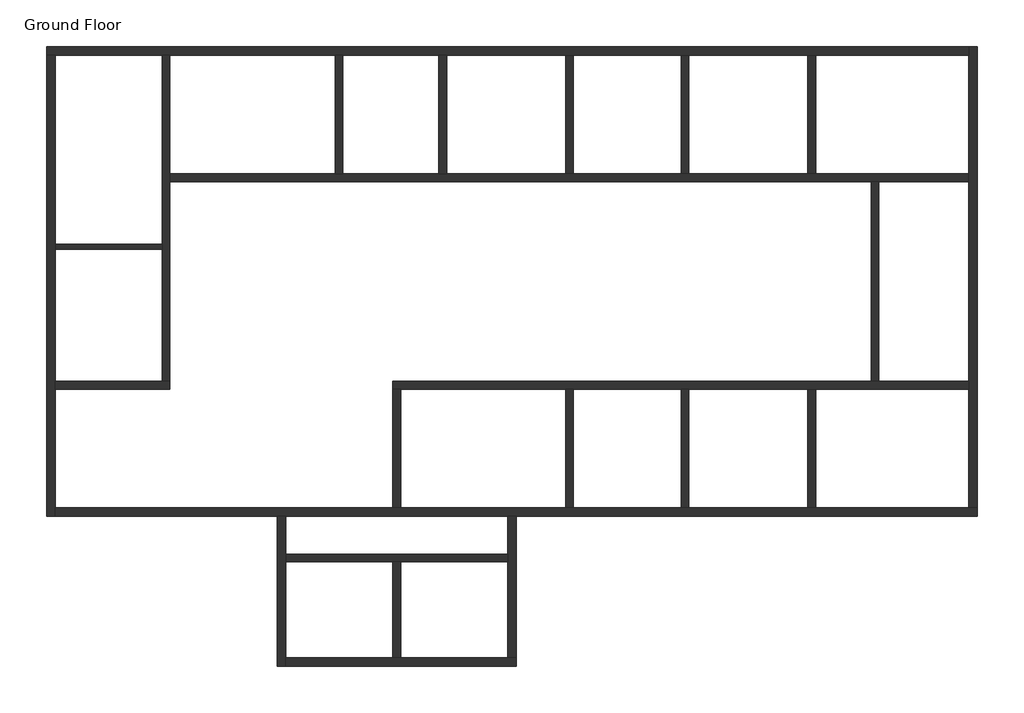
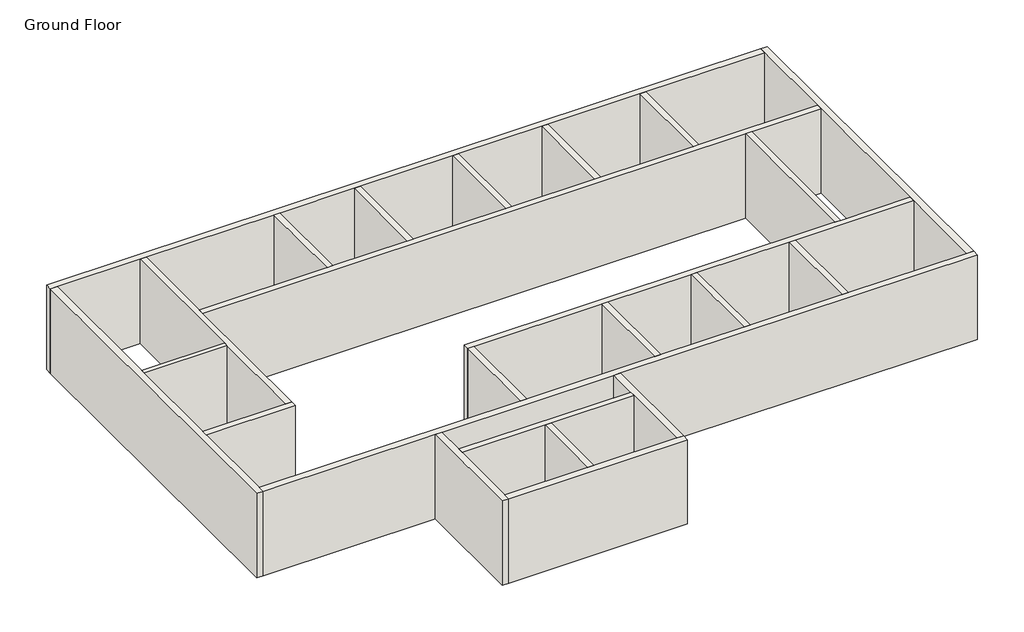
# One storey: 24 walls.
"""IFC4 building model written with IfcOpenShell, lengths in millimetres."""

from ifc_helpers import new_model, si_unit, origin, origin_with_axes, place, context, project, spatial, polyline, outline, extrude, faceted_brep, element, save

model = new_model("IFC4")

# Units and contexts
model_context = context("Model", 3, world=origin())
ifc_project = project(units=[si_unit("LENGTHUNIT", "METRE", prefix="MILLI")], contexts=[model_context])

# Site, building, storey
site = spatial("IfcSite", under=ifc_project)
building = spatial("IfcBuilding", under=site)
storey = spatial("IfcBuildingStorey", under=building, Name="Ground Floor", Elevation=0.0)

# Walls
placement = place(None, origin())
element("IfcWall", 1, ObjectType="Generic - 5\"", at=placement, inside=storey, context=model_context, shape_type="SweptSolid", body=[
    extrude(outline(polyline([(-10331.6529941, 6453.7787797), (-13163.7529941, 6453.7787797), (-13163.7529941, 6580.7787797), (-10331.6529941, 6580.7787797), (-10331.6529941, 6453.7787797)])), origin_with_axes(), (0.0, 0.0, 1.0), 3048.0),
])
element("IfcWall", 2, ObjectType="Generic - 8\"", at=placement, inside=storey, context=model_context, shape_type="Brep", body=[
    faceted_brep([(-10331.6529941, 11584.5787797, 0.0), (-10331.6529941, 6580.7787797, 0.0), (-10331.6529941, 6453.7787797, 0.0), (-10331.6529941, 2961.2787797, 0.0), (-10331.6529941, 2961.2787797, 3048.0), (-10331.6529941, 6453.7787797, 3048.0), (-10331.6529941, 6580.7787797, 3048.0), (-10331.6529941, 11584.5787797, 3048.0), (-10128.4529941, 11584.5787797, 0.0), (-10128.4529941, 11584.5787797, 3048.0), (-10128.4529941, 8447.6787797, 3048.0), (-10128.4529941, 8244.4787797, 3048.0), (-10128.4529941, 2961.2787797, 3048.0), (-10128.4529941, 2961.2787797, 0.0), (-10128.4529941, 8244.4787797, 0.0), (-10128.4529941, 8447.6787797, 0.0)], [[[0, 1, 2, 3, 4, 5, 6, 7]], [[8, 9, 10, 11, 12, 13, 14, 15]], [[3, 2, 1, 0, 8, 15, 14, 13]], [[7, 6, 5, 4, 12, 11, 10, 9]], [[0, 7, 9, 8]], [[4, 3, 13, 12]]]),
])
element("IfcWall", 3, ObjectType="Generic - 8\"", at=placement, inside=storey, context=model_context, shape_type="Brep", body=[
    faceted_brep([(-10128.4529941, 2961.2787797, 0.0), (-10331.6529941, 2961.2787797, 0.0), (-13163.7529941, 2961.2787797, 0.0), (-13163.7529941, 2961.2787797, 3048.0), (-10331.6529941, 2961.2787797, 3048.0), (-10128.4529941, 2961.2787797, 3048.0), (-10128.4529941, 2758.0787797, 0.0), (-10128.4529941, 2758.0787797, 3048.0), (-13163.7529941, 2758.0787797, 3048.0), (-13163.7529941, 2758.0787797, 0.0)], [[[0, 1, 2, 3, 4, 5]], [[6, 7, 8, 9]], [[2, 1, 0, 6, 9]], [[5, 4, 3, 8, 7]], [[3, 2, 9, 8]], [[0, 5, 7, 6]]]),
])
element("IfcWall", 4, ObjectType="Generic - 8\"", at=placement, inside=storey, context=model_context, shape_type="Brep", body=[
    faceted_brep([(-10128.4529941, 8244.4787797, 0.0), (8413.5470059, 8244.4787797, 0.0), (8616.7470059, 8244.4787797, 0.0), (10991.6470059, 8244.4787797, 0.0), (10991.6470059, 8244.4787797, 3048.0), (8616.7470059, 8244.4787797, 3048.0), (8413.5470059, 8244.4787797, 3048.0), (-10128.4529941, 8244.4787797, 3048.0), (-10128.4529941, 8447.6787797, 0.0), (-10128.4529941, 8447.6787797, 3048.0), (-5759.6529941, 8447.6787797, 3048.0), (-5556.4529941, 8447.6787797, 3048.0), (-3016.4529941, 8447.6787797, 3048.0), (-2813.2529941, 8447.6787797, 3048.0), (336.3470059, 8447.6787797, 3048.0), (539.5470059, 8447.6787797, 3048.0), (3384.3470059, 8447.6787797, 3048.0), (3587.5470059, 8447.6787797, 3048.0), (6737.1470059, 8447.6787797, 3048.0), (6940.3470059, 8447.6787797, 3048.0), (10991.6470059, 8447.6787797, 3048.0), (10991.6470059, 8447.6787797, 0.0), (6940.3470059, 8447.6787797, 0.0), (6737.1470059, 8447.6787797, 0.0), (3587.5470059, 8447.6787797, 0.0), (3384.3470059, 8447.6787797, 0.0), (539.5470059, 8447.6787797, 0.0), (336.3470059, 8447.6787797, 0.0), (-2813.2529941, 8447.6787797, 0.0), (-3016.4529941, 8447.6787797, 0.0), (-5556.4529941, 8447.6787797, 0.0), (-5759.6529941, 8447.6787797, 0.0)], [[[0, 1, 2, 3, 4, 5, 6, 7]], [[8, 9, 10, 11, 12, 13, 14, 15, 16, 17, 18, 19, 20, 21, 22, 23, 24, 25, 26, 27, 28, 29, 30, 31]], [[3, 2, 1, 0, 8, 31, 30, 29, 28, 27, 26, 25, 24, 23, 22, 21]], [[7, 6, 5, 4, 20, 19, 18, 17, 16, 15, 14, 13, 12, 11, 10, 9]], [[4, 3, 21, 20]], [[0, 7, 9, 8]]]),
])
element("IfcWall", 5, ObjectType="Generic - 8\"", at=placement, inside=storey, context=model_context, shape_type="SweptSolid", body=[
    extrude(outline(polyline([(-5556.4529941, 11584.5787797), (-5556.4529941, 8447.6787797), (-5759.6529941, 8447.6787797), (-5759.6529941, 11584.5787797), (-5556.4529941, 11584.5787797)])), origin_with_axes(), (0.0, 0.0, 1.0), 3048.0),
])
element("IfcWall", 6, ObjectType="Generic - 8\"", at=placement, inside=storey, context=model_context, shape_type="SweptSolid", body=[
    extrude(outline(polyline([(-3016.4529941, 8447.6787797), (-3016.4529941, 11584.5787797), (-2813.2529941, 11584.5787797), (-2813.2529941, 8447.6787797), (-3016.4529941, 8447.6787797)])), origin_with_axes(), (0.0, 0.0, 1.0), 3048.0),
])
element("IfcWall", 7, ObjectType="Generic - 8\"", at=placement, inside=storey, context=model_context, shape_type="SweptSolid", body=[
    extrude(outline(polyline([(336.3470059, 8447.6787797), (336.3470059, 11584.5787797), (539.5470059, 11584.5787797), (539.5470059, 8447.6787797), (336.3470059, 8447.6787797)])), origin_with_axes(), (0.0, 0.0, 1.0), 3048.0),
])
element("IfcWall", 8, ObjectType="Generic - 8\"", at=placement, inside=storey, context=model_context, shape_type="SweptSolid", body=[
    extrude(outline(polyline([(3384.3470059, 8447.6787797), (3384.3470059, 11584.5787797), (3587.5470059, 11584.5787797), (3587.5470059, 8447.6787797), (3384.3470059, 8447.6787797)])), origin_with_axes(), (0.0, 0.0, 1.0), 3048.0),
])
element("IfcWall", 9, ObjectType="Generic - 8\"", at=placement, inside=storey, context=model_context, shape_type="SweptSolid", body=[
    extrude(outline(polyline([(6737.1470059, 8447.6787797), (6737.1470059, 11584.5787797), (6940.3470059, 11584.5787797), (6940.3470059, 8447.6787797), (6737.1470059, 8447.6787797)])), origin_with_axes(), (0.0, 0.0, 1.0), 3048.0),
])
element("IfcWall", 10, ObjectType="Generic - 8\"", at=placement, inside=storey, context=model_context, shape_type="Brep", body=[
    faceted_brep([(-4235.6529941, 2758.0787797, 0.0), (-4032.4529941, 2758.0787797, 0.0), (336.3470059, 2758.0787797, 0.0), (539.5470059, 2758.0787797, 0.0), (3384.3470059, 2758.0787797, 0.0), (3587.5470059, 2758.0787797, 0.0), (6737.1470059, 2758.0787797, 0.0), (6940.3470059, 2758.0787797, 0.0), (10991.6470059, 2758.0787797, 0.0), (10991.6470059, 2758.0787797, 3048.0), (6940.3470059, 2758.0787797, 3048.0), (6737.1470059, 2758.0787797, 3048.0), (3587.5470059, 2758.0787797, 3048.0), (3384.3470059, 2758.0787797, 3048.0), (539.5470059, 2758.0787797, 3048.0), (336.3470059, 2758.0787797, 3048.0), (-4032.4529941, 2758.0787797, 3048.0), (-4235.6529941, 2758.0787797, 3048.0), (-4235.6529941, 2961.2787797, 0.0), (-4235.6529941, 2961.2787797, 3048.0), (8413.5470059, 2961.2787797, 3048.0), (8616.7470059, 2961.2787797, 3048.0), (10991.6470059, 2961.2787797, 3048.0), (10991.6470059, 2961.2787797, 0.0), (8616.7470059, 2961.2787797, 0.0), (8413.5470059, 2961.2787797, 0.0)], [[[0, 1, 2, 3, 4, 5, 6, 7, 8, 9, 10, 11, 12, 13, 14, 15, 16, 17]], [[18, 19, 20, 21, 22, 23, 24, 25]], [[8, 7, 6, 5, 4, 3, 2, 1, 0, 18, 25, 24, 23]], [[17, 16, 15, 14, 13, 12, 11, 10, 9, 22, 21, 20, 19]], [[9, 8, 23, 22]], [[0, 17, 19, 18]]]),
])
element("IfcWall", 11, ObjectType="Generic - 8\"", at=placement, inside=storey, context=model_context, shape_type="SweptSolid", body=[
    extrude(outline(polyline([(-4032.4529941, 2758.0787797), (-4032.4529941, -378.8212203), (-4235.6529941, -378.8212203), (-4235.6529941, 2758.0787797), (-4032.4529941, 2758.0787797)])), origin_with_axes(), (0.0, 0.0, 1.0), 3048.0),
])
element("IfcWall", 12, ObjectType="Generic - 8\"", at=placement, inside=storey, context=model_context, shape_type="SweptSolid", body=[
    extrude(outline(polyline([(539.5470059, 2758.0787797), (539.5470059, -378.8212203), (336.3470059, -378.8212203), (336.3470059, 2758.0787797), (539.5470059, 2758.0787797)])), origin_with_axes(), (0.0, 0.0, 1.0), 3048.0),
])
element("IfcWall", 13, ObjectType="Generic - 8\"", at=placement, inside=storey, context=model_context, shape_type="SweptSolid", body=[
    extrude(outline(polyline([(3587.5470059, 2758.0787797), (3587.5470059, -378.8212203), (3384.3470059, -378.8212203), (3384.3470059, 2758.0787797), (3587.5470059, 2758.0787797)])), origin_with_axes(), (0.0, 0.0, 1.0), 3048.0),
])
element("IfcWall", 14, ObjectType="Generic - 8\"", at=placement, inside=storey, context=model_context, shape_type="SweptSolid", body=[
    extrude(outline(polyline([(6940.3470059, 2758.0787797), (6940.3470059, -378.8212203), (6737.1470059, -378.8212203), (6737.1470059, 2758.0787797), (6940.3470059, 2758.0787797)])), origin_with_axes(), (0.0, 0.0, 1.0), 3048.0),
])
element("IfcWall", 15, ObjectType="Generic - 8\"", at=placement, inside=storey, context=model_context, shape_type="SweptSolid", body=[
    extrude(outline(polyline([(8413.5470059, 2961.2787797), (8413.5470059, 8244.4787797), (8616.7470059, 8244.4787797), (8616.7470059, 2961.2787797), (8413.5470059, 2961.2787797)])), origin_with_axes(), (0.0, 0.0, 1.0), 3048.0),
])
element("IfcWall", 16, ObjectType="Generic - 8\"", at=placement, inside=storey, context=model_context, shape_type="SweptSolid", body=[
    extrude(outline(polyline([(-4032.4529941, -1813.9212203), (-4032.4529941, -4341.2212203), (-4235.6529941, -4341.2212203), (-4235.6529941, -1813.9212203), (-4032.4529941, -1813.9212203)])), origin_with_axes(), (0.0, 0.0, 1.0), 3048.0),
])
element("IfcWall", 17, ObjectType="Generic - 8\"", at=placement, inside=storey, context=model_context, shape_type="Brep", body=[
    faceted_brep([(-1200.3529941, -1610.7212203, 0.0), (-7067.7529941, -1610.7212203, 0.0), (-7067.7529941, -1610.7212203, 3048.0), (-1200.3529941, -1610.7212203, 3048.0), (-1200.3529941, -1813.9212203, 0.0), (-1200.3529941, -1813.9212203, 3048.0), (-4032.4529941, -1813.9212203, 3048.0), (-4235.6529941, -1813.9212203, 3048.0), (-7067.7529941, -1813.9212203, 3048.0), (-7067.7529941, -1813.9212203, 0.0), (-4235.6529941, -1813.9212203, 0.0), (-4032.4529941, -1813.9212203, 0.0)], [[[0, 1, 2, 3]], [[4, 5, 6, 7, 8, 9, 10, 11]], [[1, 0, 4, 11, 10, 9]], [[3, 2, 8, 7, 6, 5]], [[2, 1, 9, 8]], [[0, 3, 5, 4]]]),
])
element("IfcWall", 18, ObjectType="Generic- 9\"", at=placement, inside=storey, context=model_context, shape_type="Brep", body=[
    faceted_brep([(-13392.3529941, 11584.5787797, 0.0), (-13163.7529941, 11584.5787797, 0.0), (-10331.6529941, 11584.5787797, 0.0), (-10128.4529941, 11584.5787797, 0.0), (-5759.6529941, 11584.5787797, 0.0), (-5556.4529941, 11584.5787797, 0.0), (-3016.4529941, 11584.5787797, 0.0), (-2813.2529941, 11584.5787797, 0.0), (336.3470059, 11584.5787797, 0.0), (539.5470059, 11584.5787797, 0.0), (3384.3470059, 11584.5787797, 0.0), (3587.5470059, 11584.5787797, 0.0), (6737.1470059, 11584.5787797, 0.0), (6940.3470059, 11584.5787797, 0.0), (10991.6470059, 11584.5787797, 0.0), (10991.6470059, 11584.5787797, 3048.0), (6940.3470059, 11584.5787797, 3048.0), (6737.1470059, 11584.5787797, 3048.0), (3587.5470059, 11584.5787797, 3048.0), (3384.3470059, 11584.5787797, 3048.0), (539.5470059, 11584.5787797, 3048.0), (336.3470059, 11584.5787797, 3048.0), (-2813.2529941, 11584.5787797, 3048.0), (-3016.4529941, 11584.5787797, 3048.0), (-5556.4529941, 11584.5787797, 3048.0), (-5759.6529941, 11584.5787797, 3048.0), (-10128.4529941, 11584.5787797, 3048.0), (-10331.6529941, 11584.5787797, 3048.0), (-13163.7529941, 11584.5787797, 3048.0), (-13392.3529941, 11584.5787797, 3048.0), (-13392.3529941, 11813.1787797, 0.0), (-13392.3529941, 11813.1787797, 3048.0), (10991.6470059, 11813.1787797, 3048.0), (10991.6470059, 11813.1787797, 0.0)], [[[0, 1, 2, 3, 4, 5, 6, 7, 8, 9, 10, 11, 12, 13, 14, 15, 16, 17, 18, 19, 20, 21, 22, 23, 24, 25, 26, 27, 28, 29]], [[30, 31, 32, 33]], [[14, 13, 12, 11, 10, 9, 8, 7, 6, 5, 4, 3, 2, 1, 0, 30, 33]], [[29, 28, 27, 26, 25, 24, 23, 22, 21, 20, 19, 18, 17, 16, 15, 32, 31]], [[0, 29, 31, 30]], [[15, 14, 33, 32]]]),
])
element("IfcWall", 19, ObjectType="Generic- 9\"", at=placement, inside=storey, context=model_context, shape_type="Brep", body=[
    faceted_brep([(-13163.7529941, -607.4212203, 0.0), (-13163.7529941, -378.8212203, 0.0), (-13163.7529941, 2758.0787797, 0.0), (-13163.7529941, 2961.2787797, 0.0), (-13163.7529941, 6453.7787797, 0.0), (-13163.7529941, 6580.7787797, 0.0), (-13163.7529941, 11584.5787797, 0.0), (-13163.7529941, 11584.5787797, 3048.0), (-13163.7529941, 6580.7787797, 3048.0), (-13163.7529941, 6453.7787797, 3048.0), (-13163.7529941, 2961.2787797, 3048.0), (-13163.7529941, 2758.0787797, 3048.0), (-13163.7529941, -378.8212203, 3048.0), (-13163.7529941, -607.4212203, 3048.0), (-13392.3529941, -607.4212203, 0.0), (-13392.3529941, -607.4212203, 3048.0), (-13392.3529941, 11584.5787797, 3048.0), (-13392.3529941, 11584.5787797, 0.0)], [[[0, 1, 2, 3, 4, 5, 6, 7, 8, 9, 10, 11, 12, 13]], [[14, 15, 16, 17]], [[6, 5, 4, 3, 2, 1, 0, 14, 17]], [[13, 12, 11, 10, 9, 8, 7, 16, 15]], [[0, 13, 15, 14]], [[7, 6, 17, 16]]]),
])
element("IfcWall", 20, ObjectType="Generic- 9\"", at=placement, inside=storey, context=model_context, shape_type="Brep", body=[
    faceted_brep([(11220.2470059, -378.8212203, 0.0), (10991.6470059, -378.8212203, 0.0), (6940.3470059, -378.8212203, 0.0), (6737.1470059, -378.8212203, 0.0), (3587.5470059, -378.8212203, 0.0), (3384.3470059, -378.8212203, 0.0), (539.5470059, -378.8212203, 0.0), (336.3470059, -378.8212203, 0.0), (-4032.4529941, -378.8212203, 0.0), (-4235.6529941, -378.8212203, 0.0), (-13163.7529941, -378.8212203, 0.0), (-13163.7529941, -378.8212203, 3048.0), (-4235.6529941, -378.8212203, 3048.0), (-4032.4529941, -378.8212203, 3048.0), (336.3470059, -378.8212203, 3048.0), (539.5470059, -378.8212203, 3048.0), (3384.3470059, -378.8212203, 3048.0), (3587.5470059, -378.8212203, 3048.0), (6737.1470059, -378.8212203, 3048.0), (6940.3470059, -378.8212203, 3048.0), (10991.6470059, -378.8212203, 3048.0), (11220.2470059, -378.8212203, 3048.0), (11220.2470059, -607.4212203, 0.0), (11220.2470059, -607.4212203, 3048.0), (-971.7529941, -607.4212203, 3048.0), (-1200.3529941, -607.4212203, 3048.0), (-7067.7529941, -607.4212203, 3048.0), (-7296.3529941, -607.4212203, 3048.0), (-13163.7529941, -607.4212203, 3048.0), (-13163.7529941, -607.4212203, 0.0), (-7296.3529941, -607.4212203, 0.0), (-7067.7529941, -607.4212203, 0.0), (-1200.3529941, -607.4212203, 0.0), (-971.7529941, -607.4212203, 0.0)], [[[0, 1, 2, 3, 4, 5, 6, 7, 8, 9, 10, 11, 12, 13, 14, 15, 16, 17, 18, 19, 20, 21]], [[22, 23, 24, 25, 26, 27, 28, 29, 30, 31, 32, 33]], [[10, 9, 8, 7, 6, 5, 4, 3, 2, 1, 0, 22, 33, 32, 31, 30, 29]], [[21, 20, 19, 18, 17, 16, 15, 14, 13, 12, 11, 28, 27, 26, 25, 24, 23]], [[0, 21, 23, 22]], [[11, 10, 29, 28]]]),
])
element("IfcWall", 21, ObjectType="Generic- 9\"", at=placement, inside=storey, context=model_context, shape_type="Brep", body=[
    faceted_brep([(10991.6470059, 11813.1787797, 0.0), (10991.6470059, 11584.5787797, 0.0), (10991.6470059, 8447.6787797, 0.0), (10991.6470059, 8244.4787797, 0.0), (10991.6470059, 2961.2787797, 0.0), (10991.6470059, 2758.0787797, 0.0), (10991.6470059, -378.8212203, 0.0), (10991.6470059, -378.8212203, 3048.0), (10991.6470059, 2758.0787797, 3048.0), (10991.6470059, 2961.2787797, 3048.0), (10991.6470059, 8244.4787797, 3048.0), (10991.6470059, 8447.6787797, 3048.0), (10991.6470059, 11584.5787797, 3048.0), (10991.6470059, 11813.1787797, 3048.0), (11220.2470059, 11813.1787797, 0.0), (11220.2470059, 11813.1787797, 3048.0), (11220.2470059, -378.8212203, 3048.0), (11220.2470059, -378.8212203, 0.0)], [[[0, 1, 2, 3, 4, 5, 6, 7, 8, 9, 10, 11, 12, 13]], [[14, 15, 16, 17]], [[6, 5, 4, 3, 2, 1, 0, 14, 17]], [[13, 12, 11, 10, 9, 8, 7, 16, 15]], [[0, 13, 15, 14]], [[7, 6, 17, 16]]]),
])
element("IfcWall", 22, ObjectType="Generic- 9\"", at=placement, inside=storey, context=model_context, shape_type="Brep", body=[
    faceted_brep([(-7296.3529941, -607.4212203, 0.0), (-7296.3529941, -4569.8212203, 0.0), (-7296.3529941, -4569.8212203, 3048.0), (-7296.3529941, -607.4212203, 3048.0), (-7067.7529941, -607.4212203, 0.0), (-7067.7529941, -607.4212203, 3048.0), (-7067.7529941, -1610.7212203, 3048.0), (-7067.7529941, -1813.9212203, 3048.0), (-7067.7529941, -4341.2212203, 3048.0), (-7067.7529941, -4569.8212203, 3048.0), (-7067.7529941, -4569.8212203, 0.0), (-7067.7529941, -4341.2212203, 0.0), (-7067.7529941, -1813.9212203, 0.0), (-7067.7529941, -1610.7212203, 0.0)], [[[0, 1, 2, 3]], [[4, 5, 6, 7, 8, 9, 10, 11, 12, 13]], [[1, 0, 4, 13, 12, 11, 10]], [[3, 2, 9, 8, 7, 6, 5]], [[0, 3, 5, 4]], [[2, 1, 10, 9]]]),
])
element("IfcWall", 23, ObjectType="Generic- 9\"", at=placement, inside=storey, context=model_context, shape_type="Brep", body=[
    faceted_brep([(-7067.7529941, -4569.8212203, 0.0), (-971.7529941, -4569.8212203, 0.0), (-971.7529941, -4569.8212203, 3048.0), (-7067.7529941, -4569.8212203, 3048.0), (-7067.7529941, -4341.2212203, 0.0), (-7067.7529941, -4341.2212203, 3048.0), (-4235.6529941, -4341.2212203, 3048.0), (-4032.4529941, -4341.2212203, 3048.0), (-1200.3529941, -4341.2212203, 3048.0), (-971.7529941, -4341.2212203, 3048.0), (-971.7529941, -4341.2212203, 0.0), (-1200.3529941, -4341.2212203, 0.0), (-4032.4529941, -4341.2212203, 0.0), (-4235.6529941, -4341.2212203, 0.0)], [[[0, 1, 2, 3]], [[4, 5, 6, 7, 8, 9, 10, 11, 12, 13]], [[1, 0, 4, 13, 12, 11, 10]], [[3, 2, 9, 8, 7, 6, 5]], [[0, 3, 5, 4]], [[2, 1, 10, 9]]]),
])
element("IfcWall", 24, ObjectType="Generic- 9\"", at=placement, inside=storey, context=model_context, shape_type="Brep", body=[
    faceted_brep([(-971.7529941, -4341.2212203, 0.0), (-971.7529941, -607.4212203, 0.0), (-971.7529941, -607.4212203, 3048.0), (-971.7529941, -4341.2212203, 3048.0), (-1200.3529941, -4341.2212203, 0.0), (-1200.3529941, -4341.2212203, 3048.0), (-1200.3529941, -1813.9212203, 3048.0), (-1200.3529941, -1610.7212203, 3048.0), (-1200.3529941, -607.4212203, 3048.0), (-1200.3529941, -607.4212203, 0.0), (-1200.3529941, -1610.7212203, 0.0), (-1200.3529941, -1813.9212203, 0.0)], [[[0, 1, 2, 3]], [[4, 5, 6, 7, 8, 9, 10, 11]], [[1, 0, 4, 11, 10, 9]], [[3, 2, 8, 7, 6, 5]], [[0, 3, 5, 4]], [[2, 1, 9, 8]]]),
])

save(model, "model.ifc")
